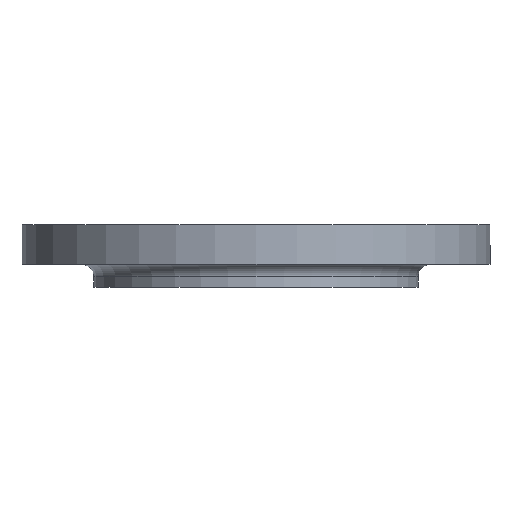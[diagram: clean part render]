
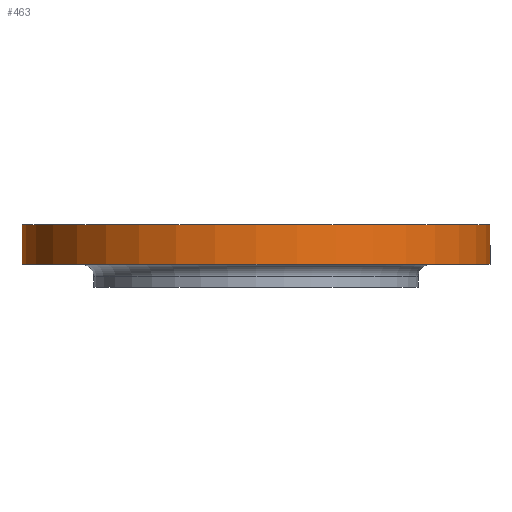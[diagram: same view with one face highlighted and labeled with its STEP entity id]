
A CAD part, front view. The second image highlights one B-rep face of the part: STEP entity #463.
In plain terms, the highlighted cylindrical face has radius 225 mm (diameter 450 mm), a partial arc.
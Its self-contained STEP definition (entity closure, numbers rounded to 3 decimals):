
#124 = CARTESIAN_POINT ( 'NONE',  ( 225., 0., 0. ) ) ;
#127 = CARTESIAN_POINT ( 'NONE',  ( 225., 0., -38. ) ) ;
#141 = CIRCLE ( 'NONE', #1089, 225. ) ;
#147 = DIRECTION ( 'NONE',  ( 0., 0., 1. ) ) ;
#148 = CARTESIAN_POINT ( 'NONE',  ( 225., 0., -115. ) ) ;
#150 = LINE ( 'NONE', #148, #547 ) ;
#177 = DIRECTION ( 'NONE',  ( 1., 0., 0. ) ) ;
#178 = DIRECTION ( 'NONE',  ( 0., 0., 1. ) ) ;
#179 = CARTESIAN_POINT ( 'NONE',  ( 0., 0., -38. ) ) ;
#211 = CARTESIAN_POINT ( 'NONE',  ( -225., 0., 0. ) ) ;
#225 = CARTESIAN_POINT ( 'NONE',  ( -225., 0., -38. ) ) ;
#251 = VECTOR ( 'NONE', #622, 1000. ) ;
#269 = AXIS2_PLACEMENT_3D ( 'NONE', #629, #628, #627 ) ;
#463 = ADVANCED_FACE ( 'NONE', ( #631 ), #630, .T. ) ;
#473 = CIRCLE ( 'NONE', #490, 225. ) ;
#481 = EDGE_CURVE ( 'NONE', #961, #982, #625, .T. ) ;
#490 = AXIS2_PLACEMENT_3D ( 'NONE', #528, #526, #523 ) ;
#523 = DIRECTION ( 'NONE',  ( 1., 0., 0. ) ) ;
#526 = DIRECTION ( 'NONE',  ( 0., 0., 1. ) ) ;
#528 = CARTESIAN_POINT ( 'NONE',  ( 0., 0., 0. ) ) ;
#547 = VECTOR ( 'NONE', #147, 1000. ) ;
#622 = DIRECTION ( 'NONE',  ( 0., 0., 1. ) ) ;
#623 = CARTESIAN_POINT ( 'NONE',  ( -225., 0., -115. ) ) ;
#625 = LINE ( 'NONE', #623, #251 ) ;
#627 = DIRECTION ( 'NONE',  ( 1., 0., 0. ) ) ;
#628 = DIRECTION ( 'NONE',  ( 0., 0., 1. ) ) ;
#629 = CARTESIAN_POINT ( 'NONE',  ( 0., 0., -115. ) ) ;
#630 = CYLINDRICAL_SURFACE ( 'NONE', #269, 225. ) ;
#631 = FACE_OUTER_BOUND ( 'NONE', #954, .T. ) ;
#638 = EDGE_CURVE ( 'NONE', #982, #1106, #473, .T. ) ;
#954 = EDGE_LOOP ( 'NONE', ( #1229, #1230, #1231, #1232 ) ) ;
#961 = VERTEX_POINT ( 'NONE', #225 ) ;
#982 = VERTEX_POINT ( 'NONE', #211 ) ;
#1031 = EDGE_CURVE ( 'NONE', #961, #1098, #141, .T. ) ;
#1049 = EDGE_CURVE ( 'NONE', #1098, #1106, #150, .T. ) ;
#1089 = AXIS2_PLACEMENT_3D ( 'NONE', #179, #178, #177 ) ;
#1098 = VERTEX_POINT ( 'NONE', #127 ) ;
#1106 = VERTEX_POINT ( 'NONE', #124 ) ;
#1229 = ORIENTED_EDGE ( 'NONE', *, *, #481, .F. ) ;
#1230 = ORIENTED_EDGE ( 'NONE', *, *, #1031, .T. ) ;
#1231 = ORIENTED_EDGE ( 'NONE', *, *, #1049, .T. ) ;
#1232 = ORIENTED_EDGE ( 'NONE', *, *, #638, .F. ) ;
